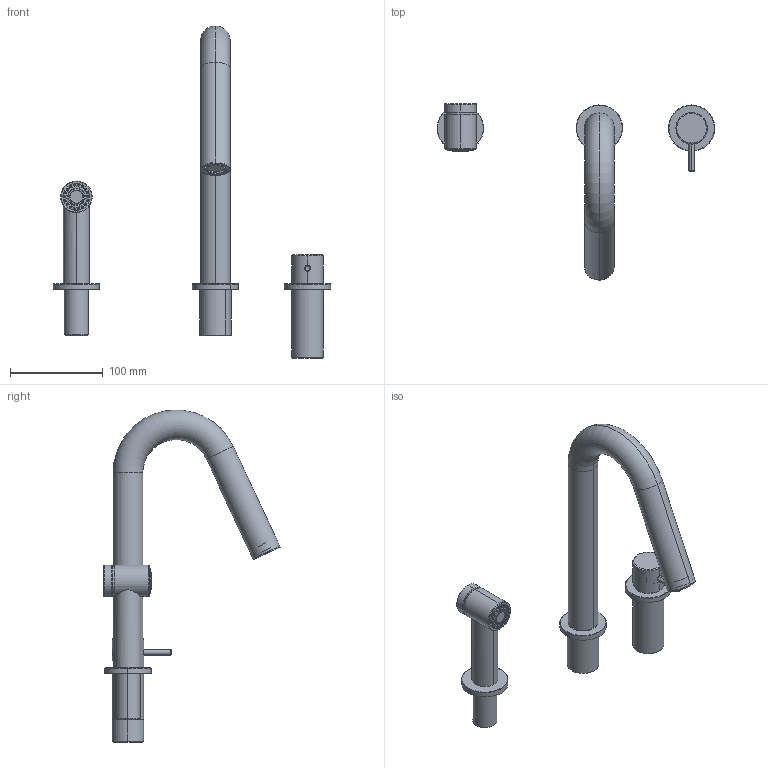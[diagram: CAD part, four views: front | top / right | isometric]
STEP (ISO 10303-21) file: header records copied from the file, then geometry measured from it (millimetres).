
FILE_DESCRIPTION (( 'STEP AP203' ), '1' );
FILE_NAME ('KT16T.STEP', '2025-02-07T13:31:14', ( '' ), ( '' ), 'SwSTEP 2.0', 'SolidWorks 2024', '' );
FILE_SCHEMA (( 'CONFIG_CONTROL_DESIGN' ));
Length unit declared in the file: millimetre
Products named in the file (24): C21.0649.00.0; C21.0648.00.1; C24.0301.00.0; C29.10.0008.01; MME25; AS556_00; KT16T; C24.0120.00.1; C13.00.0018; C24.0150.00.3; C12.00.0004; C12.00.0007; C47.00.0023.01; C21.0652.00.1; C11.14.0003; C11.14.0009; C24.0028.00.2; C24.1472.00.0; C24.0119.00.2; C10.00.0013; C24.0029.00.1; C24.2339.00.0; C24.0705.00.0; C24.1904.00.0
Assembly tree (26 placements, depth 3):
  KT16T
    AS556_00
      C24.0029.00.1
      C12.00.0004
      C24.1472.00.0
      C21.0648.00.1
      C21.0649.00.0  x2
      C12.00.0007  x2
      C11.14.0003
      C24.0150.00.3
      C21.0652.00.1
      C24.0301.00.0
      C13.00.0018
      C47.00.0023.01
    MME25
      C24.1904.00.0
      C24.0119.00.2
      C24.0120.00.1
      C10.00.0013
      C11.14.0009
      C47.00.0023.01
      C24.0028.00.2
      C24.0705.00.0
    C24.2339.00.0
    C29.10.0008.01
Bounding box: 299.63 x 190.34 x 358.39 mm (x, y, z)
Volume: 291269.4 mm3; surface area: 201662.5 mm2
Topology: 24 solids, 34 shells, 1423 faces, 3693 edges, 2381 vertices
Faces by surface type: cylinder 525, plane 439, cone 291, bspline 92, torus 76
Entity records: 49728 total; most frequent: CARTESIAN_POINT 14369, DIRECTION 6918, ORIENTED_EDGE 6602, EDGE_CURVE 3531, AXIS2_PLACEMENT_3D 2763, VERTEX_POINT 2295, EDGE_LOOP 1534, CIRCLE 1452
